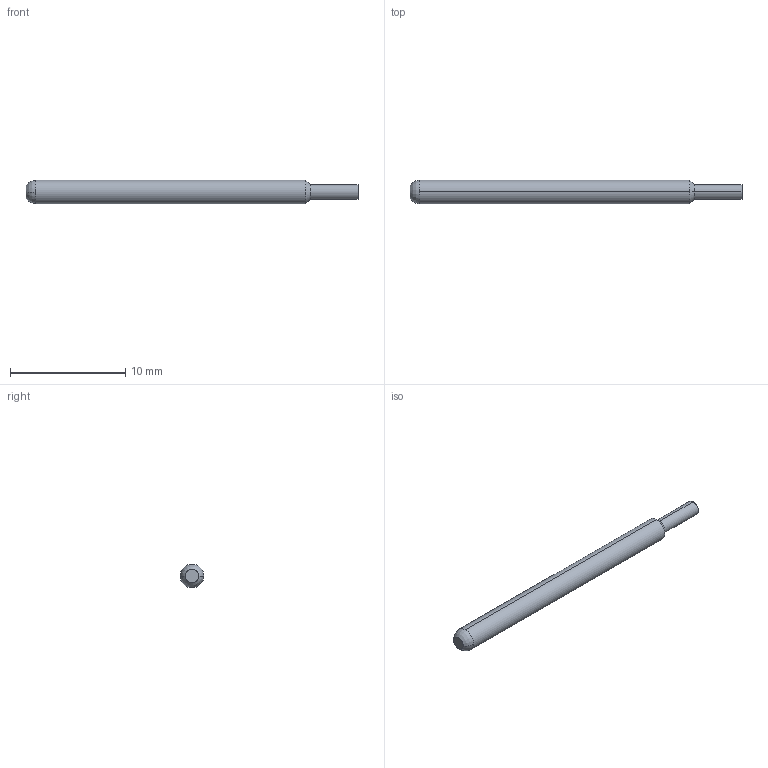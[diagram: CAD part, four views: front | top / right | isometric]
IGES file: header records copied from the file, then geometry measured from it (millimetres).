
Start section: SolidWorks IGES file using analytic representation for surfaces
Global section: file name: C:\Documents and Settings\mrumschlag\Desktop\changes\new\test\EPA-3C RECD.IGS; native system: SolidWorks 2008; preprocessor: SolidWorks 2008; author: mrumschlag; date: 110414.162811; units: inch
Bounding box: 28.78 x 2.03 x 2.03 mm (x, y, z)
Surface area: 176.5 mm2 (no closed solid volume)
Topology: 0 solids, 0 shells, 10 faces, 68 edges, 68 vertices
Faces by surface type: revolution 8, bspline 2
